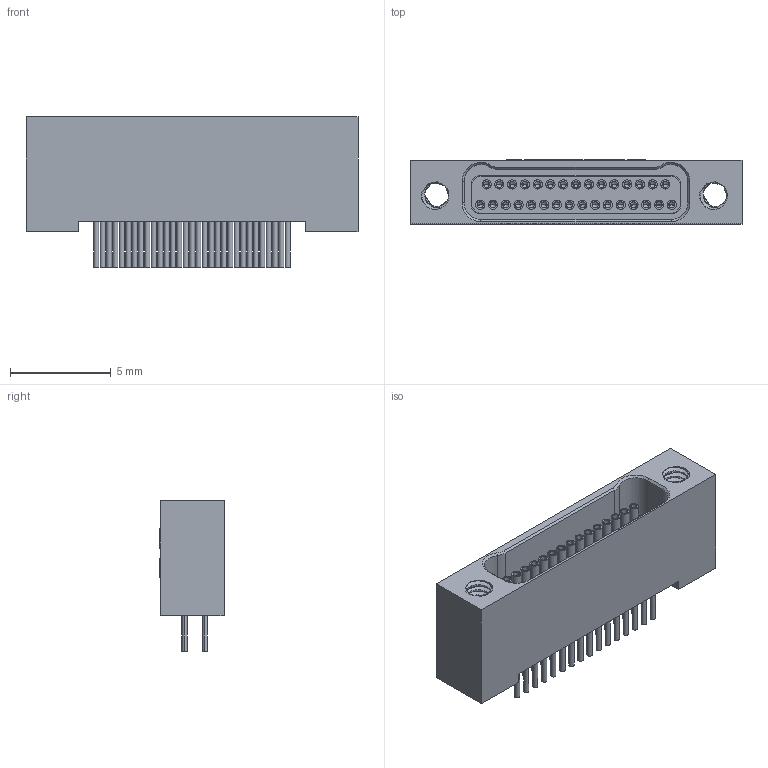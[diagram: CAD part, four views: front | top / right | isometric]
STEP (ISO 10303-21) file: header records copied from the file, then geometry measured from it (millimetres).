
FILE_DESCRIPTION (( 'STEP AP214' ), '1' );
FILE_NAME ('A29500-031 REV J.STEP', '2015-11-05T13:34:41', ( '' ), ( '' ), 'SwSTEP 2.0', 'SolidWorks 2015', '' );
FILE_SCHEMA (( 'AUTOMOTIVE_DESIGN' ));
Length unit declared in the file: inch
Products named in the file (1): A29500-031
Bounding box: 16.51 x 3.19 x 7.49 mm (x, y, z)
Volume: 192.1 mm3; surface area: 747.7 mm2
Topology: 1 solids, 1 shells, 595 faces, 1471 edges, 925 vertices
Faces by surface type: cylinder 274, plane 199, cone 68, bspline 54
Entity records: 25991 total; most frequent: CARTESIAN_POINT 11636, ORIENTED_EDGE 2818, DIRECTION 2645, EDGE_CURVE 1409, AXIS2_PLACEMENT_3D 952, VERTEX_POINT 925, LINE 741, VECTOR 741
